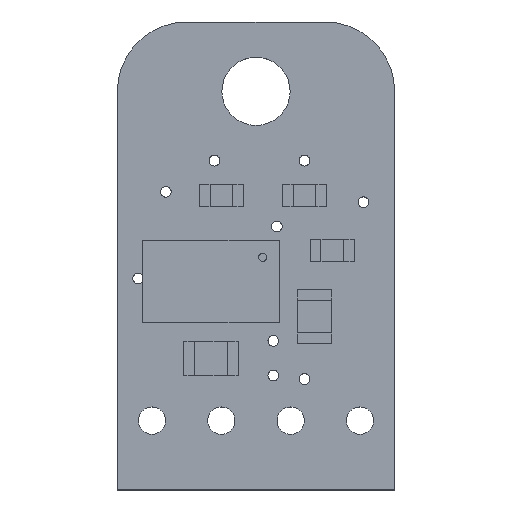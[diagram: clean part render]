
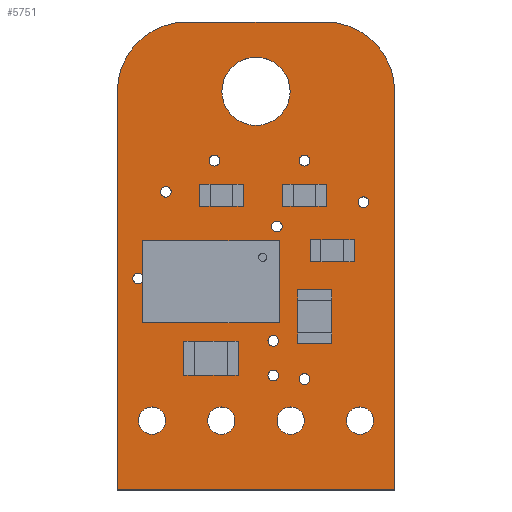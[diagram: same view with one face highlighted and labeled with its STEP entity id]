
A CAD part, top view. The second image highlights one B-rep face of the part: STEP entity #5751.
In plain terms, the highlighted planar face has unit normal (0, 0, 1).
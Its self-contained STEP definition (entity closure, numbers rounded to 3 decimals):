
#67=FACE_BOUND('',#678,.T.);
#68=FACE_BOUND('',#679,.T.);
#69=FACE_BOUND('',#680,.T.);
#70=FACE_BOUND('',#681,.T.);
#71=FACE_BOUND('',#682,.T.);
#72=FACE_BOUND('',#683,.T.);
#73=FACE_BOUND('',#684,.T.);
#74=FACE_BOUND('',#685,.T.);
#75=FACE_BOUND('',#686,.T.);
#76=FACE_BOUND('',#687,.T.);
#77=FACE_BOUND('',#688,.T.);
#78=FACE_BOUND('',#689,.T.);
#79=FACE_BOUND('',#690,.T.);
#80=FACE_BOUND('',#691,.T.);
#102=PLANE('',#6172);
#355=FACE_OUTER_BOUND('',#677,.T.);
#677=EDGE_LOOP('',(#3989,#3990,#3991,#3992,#3993,#3994));
#678=EDGE_LOOP('',(#3995));
#679=EDGE_LOOP('',(#3996));
#680=EDGE_LOOP('',(#3997));
#681=EDGE_LOOP('',(#3998));
#682=EDGE_LOOP('',(#3999));
#683=EDGE_LOOP('',(#4000));
#684=EDGE_LOOP('',(#4001));
#685=EDGE_LOOP('',(#4002));
#686=EDGE_LOOP('',(#4003));
#687=EDGE_LOOP('',(#4004));
#688=EDGE_LOOP('',(#4005));
#689=EDGE_LOOP('',(#4006));
#690=EDGE_LOOP('',(#4007));
#691=EDGE_LOOP('',(#4008));
#1026=LINE('',#8390,#1693);
#1029=LINE('',#8396,#1696);
#1032=LINE('',#8402,#1699);
#1036=LINE('',#8414,#1703);
#1693=VECTOR('',#6728,10.);
#1696=VECTOR('',#6733,10.);
#1699=VECTOR('',#6738,10.);
#1703=VECTOR('',#6750,10.);
#2345=CIRCLE('',#6122,0.5);
#2347=CIRCLE('',#6125,0.5);
#2349=CIRCLE('',#6128,0.197);
#2351=CIRCLE('',#6131,0.197);
#2353=CIRCLE('',#6134,0.197);
#2355=CIRCLE('',#6137,0.197);
#2357=CIRCLE('',#6140,0.197);
#2359=CIRCLE('',#6143,0.197);
#2361=CIRCLE('',#6146,0.197);
#2363=CIRCLE('',#6149,0.197);
#2365=CIRCLE('',#6152,0.197);
#2367=CIRCLE('',#6155,1.25);
#2369=CIRCLE('',#6158,0.5);
#2371=CIRCLE('',#6161,0.5);
#2373=CIRCLE('',#6167,2.54);
#2375=CIRCLE('',#6171,2.54);
#2515=VERTEX_POINT('',#8302);
#2517=VERTEX_POINT('',#8308);
#2519=VERTEX_POINT('',#8314);
#2521=VERTEX_POINT('',#8320);
#2523=VERTEX_POINT('',#8326);
#2525=VERTEX_POINT('',#8332);
#2527=VERTEX_POINT('',#8338);
#2529=VERTEX_POINT('',#8344);
#2531=VERTEX_POINT('',#8350);
#2533=VERTEX_POINT('',#8356);
#2535=VERTEX_POINT('',#8362);
#2537=VERTEX_POINT('',#8368);
#2539=VERTEX_POINT('',#8374);
#2541=VERTEX_POINT('',#8380);
#2544=VERTEX_POINT('',#8387);
#2545=VERTEX_POINT('',#8389);
#2547=VERTEX_POINT('',#8395);
#2549=VERTEX_POINT('',#8401);
#2551=VERTEX_POINT('',#8407);
#2553=VERTEX_POINT('',#8413);
#3074=EDGE_CURVE('',#2515,#2515,#2345,.T.);
#3077=EDGE_CURVE('',#2517,#2517,#2347,.T.);
#3080=EDGE_CURVE('',#2519,#2519,#2349,.T.);
#3083=EDGE_CURVE('',#2521,#2521,#2351,.T.);
#3086=EDGE_CURVE('',#2523,#2523,#2353,.T.);
#3089=EDGE_CURVE('',#2525,#2525,#2355,.T.);
#3092=EDGE_CURVE('',#2527,#2527,#2357,.T.);
#3095=EDGE_CURVE('',#2529,#2529,#2359,.T.);
#3098=EDGE_CURVE('',#2531,#2531,#2361,.T.);
#3101=EDGE_CURVE('',#2533,#2533,#2363,.T.);
#3104=EDGE_CURVE('',#2535,#2535,#2365,.T.);
#3107=EDGE_CURVE('',#2537,#2537,#2367,.T.);
#3110=EDGE_CURVE('',#2539,#2539,#2369,.T.);
#3113=EDGE_CURVE('',#2541,#2541,#2371,.T.);
#3116=EDGE_CURVE('',#2545,#2544,#1026,.T.);
#3119=EDGE_CURVE('',#2547,#2545,#1029,.T.);
#3122=EDGE_CURVE('',#2549,#2547,#1032,.T.);
#3125=EDGE_CURVE('',#2551,#2549,#2373,.T.);
#3128=EDGE_CURVE('',#2553,#2551,#1036,.T.);
#3131=EDGE_CURVE('',#2544,#2553,#2375,.T.);
#3989=ORIENTED_EDGE('',*,*,#3131,.T.);
#3990=ORIENTED_EDGE('',*,*,#3128,.T.);
#3991=ORIENTED_EDGE('',*,*,#3125,.T.);
#3992=ORIENTED_EDGE('',*,*,#3122,.T.);
#3993=ORIENTED_EDGE('',*,*,#3119,.T.);
#3994=ORIENTED_EDGE('',*,*,#3116,.T.);
#3995=ORIENTED_EDGE('',*,*,#3074,.T.);
#3996=ORIENTED_EDGE('',*,*,#3077,.T.);
#3997=ORIENTED_EDGE('',*,*,#3080,.T.);
#3998=ORIENTED_EDGE('',*,*,#3083,.T.);
#3999=ORIENTED_EDGE('',*,*,#3086,.T.);
#4000=ORIENTED_EDGE('',*,*,#3089,.T.);
#4001=ORIENTED_EDGE('',*,*,#3092,.T.);
#4002=ORIENTED_EDGE('',*,*,#3095,.T.);
#4003=ORIENTED_EDGE('',*,*,#3098,.T.);
#4004=ORIENTED_EDGE('',*,*,#3101,.T.);
#4005=ORIENTED_EDGE('',*,*,#3104,.T.);
#4006=ORIENTED_EDGE('',*,*,#3107,.T.);
#4007=ORIENTED_EDGE('',*,*,#3110,.T.);
#4008=ORIENTED_EDGE('',*,*,#3113,.T.);
#5751=ADVANCED_FACE('',(#355,#67,#68,#69,#70,#71,#72,#73,#74,#75,#76,#77,
#78,#79,#80),#102,.T.);
#6122=AXIS2_PLACEMENT_3D('',#8304,#6631,#6632);
#6125=AXIS2_PLACEMENT_3D('',#8310,#6638,#6639);
#6128=AXIS2_PLACEMENT_3D('',#8316,#6645,#6646);
#6131=AXIS2_PLACEMENT_3D('',#8322,#6652,#6653);
#6134=AXIS2_PLACEMENT_3D('',#8328,#6659,#6660);
#6137=AXIS2_PLACEMENT_3D('',#8334,#6666,#6667);
#6140=AXIS2_PLACEMENT_3D('',#8340,#6673,#6674);
#6143=AXIS2_PLACEMENT_3D('',#8346,#6680,#6681);
#6146=AXIS2_PLACEMENT_3D('',#8352,#6687,#6688);
#6149=AXIS2_PLACEMENT_3D('',#8358,#6694,#6695);
#6152=AXIS2_PLACEMENT_3D('',#8364,#6701,#6702);
#6155=AXIS2_PLACEMENT_3D('',#8370,#6708,#6709);
#6158=AXIS2_PLACEMENT_3D('',#8376,#6715,#6716);
#6161=AXIS2_PLACEMENT_3D('',#8382,#6722,#6723);
#6167=AXIS2_PLACEMENT_3D('',#8408,#6744,#6745);
#6171=AXIS2_PLACEMENT_3D('',#8418,#6756,#6757);
#6172=AXIS2_PLACEMENT_3D('',#8419,#6758,#6759);
#6631=DIRECTION('center_axis',(0.,0.,-1.));
#6632=DIRECTION('ref_axis',(1.,0.,0.));
#6638=DIRECTION('center_axis',(0.,0.,-1.));
#6639=DIRECTION('ref_axis',(1.,0.,0.));
#6645=DIRECTION('center_axis',(0.,0.,-1.));
#6646=DIRECTION('ref_axis',(1.,0.,0.));
#6652=DIRECTION('center_axis',(0.,0.,-1.));
#6653=DIRECTION('ref_axis',(1.,0.,0.));
#6659=DIRECTION('center_axis',(0.,0.,-1.));
#6660=DIRECTION('ref_axis',(1.,0.,0.));
#6666=DIRECTION('center_axis',(0.,0.,-1.));
#6667=DIRECTION('ref_axis',(1.,0.,0.));
#6673=DIRECTION('center_axis',(0.,0.,-1.));
#6674=DIRECTION('ref_axis',(1.,0.,0.));
#6680=DIRECTION('center_axis',(0.,0.,-1.));
#6681=DIRECTION('ref_axis',(1.,0.,0.));
#6687=DIRECTION('center_axis',(0.,0.,-1.));
#6688=DIRECTION('ref_axis',(1.,0.,0.));
#6694=DIRECTION('center_axis',(0.,0.,-1.));
#6695=DIRECTION('ref_axis',(1.,0.,0.));
#6701=DIRECTION('center_axis',(0.,0.,-1.));
#6702=DIRECTION('ref_axis',(1.,0.,0.));
#6708=DIRECTION('center_axis',(0.,0.,-1.));
#6709=DIRECTION('ref_axis',(1.,0.,0.));
#6715=DIRECTION('center_axis',(0.,0.,-1.));
#6716=DIRECTION('ref_axis',(1.,0.,0.));
#6722=DIRECTION('center_axis',(0.,0.,-1.));
#6723=DIRECTION('ref_axis',(1.,0.,0.));
#6728=DIRECTION('',(0.,1.,0.));
#6733=DIRECTION('',(1.,0.,0.));
#6738=DIRECTION('',(0.,-1.,0.));
#6744=DIRECTION('center_axis',(0.,0.,1.));
#6745=DIRECTION('ref_axis',(0.,1.,0.));
#6750=DIRECTION('',(-1.,0.,0.));
#6756=DIRECTION('center_axis',(0.,0.,1.));
#6757=DIRECTION('ref_axis',(1.,0.,0.));
#6758=DIRECTION('center_axis',(0.,0.,1.));
#6759=DIRECTION('ref_axis',(1.,0.,0.));
#8302=CARTESIAN_POINT('',(3.31,2.54,1.57));
#8304=CARTESIAN_POINT('Origin',(3.81,2.54,1.57));
#8308=CARTESIAN_POINT('',(8.39,2.54,1.57));
#8310=CARTESIAN_POINT('Origin',(8.89,2.54,1.57));
#8314=CARTESIAN_POINT('',(5.645,9.652,1.57));
#8316=CARTESIAN_POINT('Origin',(5.842,9.652,1.57));
#8320=CARTESIAN_POINT('',(6.661,4.064,1.57));
#8322=CARTESIAN_POINT('Origin',(6.858,4.064,1.57));
#8326=CARTESIAN_POINT('',(1.581,10.922,1.57));
#8328=CARTESIAN_POINT('Origin',(1.778,10.922,1.57));
#8332=CARTESIAN_POINT('',(5.518,4.191,1.57));
#8334=CARTESIAN_POINT('Origin',(5.715,4.191,1.57));
#8338=CARTESIAN_POINT('',(6.661,12.065,1.57));
#8340=CARTESIAN_POINT('Origin',(6.858,12.065,1.57));
#8344=CARTESIAN_POINT('',(8.82,10.541,1.57));
#8346=CARTESIAN_POINT('Origin',(9.017,10.541,1.57));
#8350=CARTESIAN_POINT('',(5.518,5.461,1.57));
#8352=CARTESIAN_POINT('Origin',(5.715,5.461,1.57));
#8356=CARTESIAN_POINT('',(3.359,12.065,1.57));
#8358=CARTESIAN_POINT('Origin',(3.556,12.065,1.57));
#8362=CARTESIAN_POINT('',(0.565,7.747,1.57));
#8364=CARTESIAN_POINT('Origin',(0.762,7.747,1.57));
#8368=CARTESIAN_POINT('',(3.83,14.605,1.57));
#8370=CARTESIAN_POINT('Origin',(5.08,14.605,1.57));
#8374=CARTESIAN_POINT('',(5.85,2.54,1.57));
#8376=CARTESIAN_POINT('Origin',(6.35,2.54,1.57));
#8380=CARTESIAN_POINT('',(0.77,2.54,1.57));
#8382=CARTESIAN_POINT('Origin',(1.27,2.54,1.57));
#8387=CARTESIAN_POINT('',(10.16,14.605,1.57));
#8389=CARTESIAN_POINT('',(10.16,0.,1.57));
#8390=CARTESIAN_POINT('',(10.16,14.605,1.57));
#8395=CARTESIAN_POINT('',(0.,0.,1.57));
#8396=CARTESIAN_POINT('',(10.16,0.,1.57));
#8401=CARTESIAN_POINT('',(0.,14.605,1.57));
#8402=CARTESIAN_POINT('',(0.,0.,1.57));
#8407=CARTESIAN_POINT('',(2.54,17.145,1.57));
#8408=CARTESIAN_POINT('Origin',(2.54,14.605,1.57));
#8413=CARTESIAN_POINT('',(7.62,17.145,1.57));
#8414=CARTESIAN_POINT('',(2.54,17.145,1.57));
#8418=CARTESIAN_POINT('Origin',(7.62,14.605,1.57));
#8419=CARTESIAN_POINT('Origin',(5.08,8.573,1.57));
